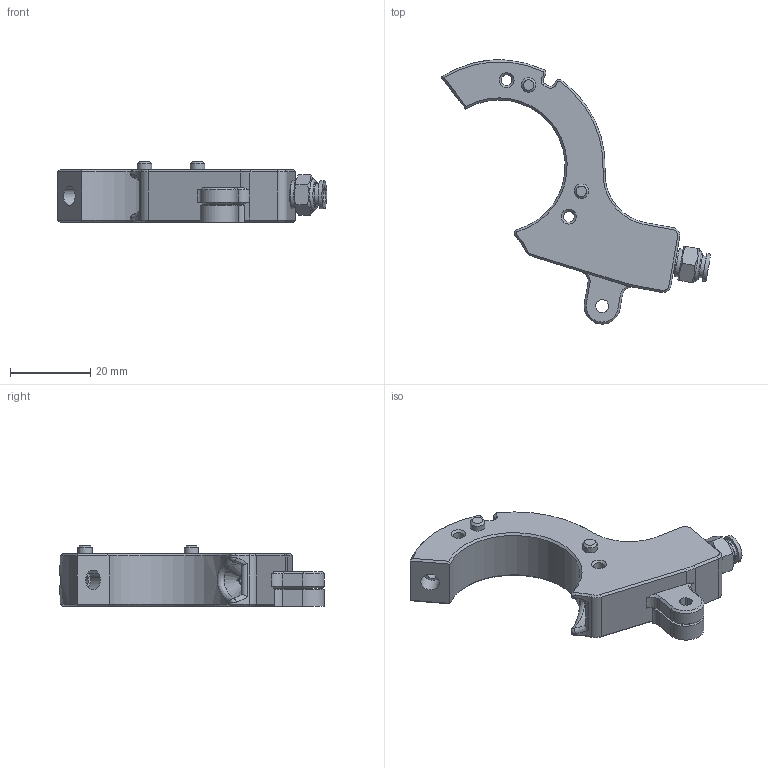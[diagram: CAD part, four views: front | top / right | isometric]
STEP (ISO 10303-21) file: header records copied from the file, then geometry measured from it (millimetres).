
FILE_DESCRIPTION(/* description */ (''),/* implementation_level */ '2;1');
FILE_NAME(/* name */ 'Tensioner_Mount_Std_PC4-M6.step',/* time_stamp */ '2025-10-09T18:37:53-05:00',/* author */ (''),/* organization */ (''),/* preprocessor_version */ 'ST-DEVELOPER v20.1',/* originating_system */ 'Autodesk Translation Framework v14.17.0.0',/* authorisation */ '');
FILE_SCHEMA (('AUTOMOTIVE_DESIGN { 1 0 10303 214 3 1 1 }'));
Length unit declared in the file: millimetre
Products named in the file (2): Tensioner_Mount_Std; PC4-M6
Assembly tree (1 placements, depth 2):
  Tensioner_Mount_Std
    PC4-M6
Bounding box: 67.29 x 65.95 x 15 mm (x, y, z)
Volume: 15152.7 mm3; surface area: 7266.9 mm2
Topology: 3 solids, 3 shells, 221 faces, 531 edges, 324 vertices
Faces by surface type: plane 85, cylinder 64, cone 47, bspline 21, torus 2, sphere 2
Full cylindrical faces by diameter (mm): 2.7 x2, 3.3 x1, 3.6 x2, 4 x1, 5.035 x4, 5.5 x1, 6 x6, 6.147 x2, 6.8 x1, 7 x2
Entity records: 9364 total; most frequent: CARTESIAN_POINT 4344, ORIENTED_EDGE 1064, DIRECTION 959, EDGE_CURVE 532, AXIS2_PLACEMENT_3D 353, VERTEX_POINT 324, LINE 253, VECTOR 253
